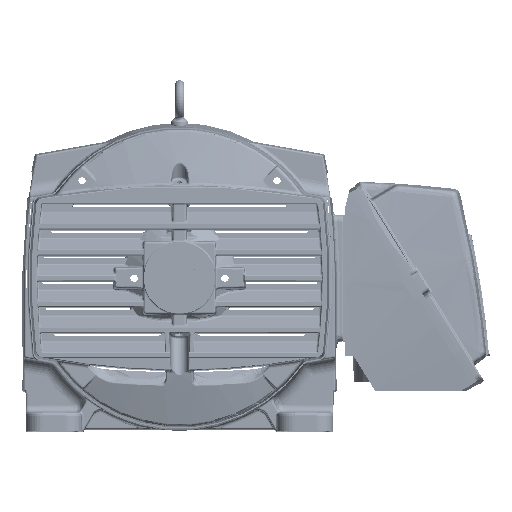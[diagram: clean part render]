
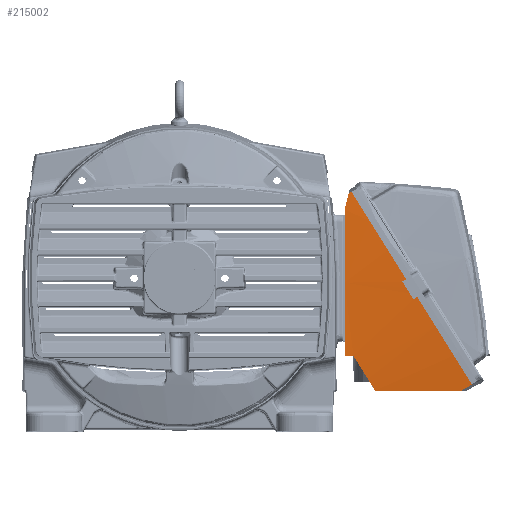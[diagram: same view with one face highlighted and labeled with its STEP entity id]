
A CAD part, top view. The second image highlights one B-rep face of the part: STEP entity #215002.
In plain terms, the highlighted conical face has half-angle 2 degrees and reference radius 1679.31 mm.
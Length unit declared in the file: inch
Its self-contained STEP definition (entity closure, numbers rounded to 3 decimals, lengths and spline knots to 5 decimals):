
#212722=CARTESIAN_POINT('',(-4.99664,6.4701,
5.28443));
#212724=CARTESIAN_POINT('',(-4.99664,6.4701,
5.28443));
#212725=CARTESIAN_POINT('',(-5.09171,6.08879,
5.30828));
#212726=CARTESIAN_POINT('',(-5.18681,5.70738,
5.33041));
#212727=CARTESIAN_POINT('',(-5.28193,5.32589,
5.35085));
#212789=CARTESIAN_POINT('',(-4.78997,6.60878,
5.29218));
#212790=CARTESIAN_POINT('',(-4.85886,6.56256,
5.2896));
#212791=CARTESIAN_POINT('',(-4.92775,6.51633,
5.28702));
#212792=CARTESIAN_POINT('',(-4.99664,6.4701,
5.28443));
#213003=DIRECTION('',(0.848,0.53,0.035));
#213004=VECTOR('',#213003,0.3202);
#213005=CARTESIAN_POINT('',(-1.14372,0.16971,
5.77924));
#213006=LINE('',#213005,#213004);
#213027=DIRECTION('',(-0.848,-0.53,
-0.035));
#213028=VECTOR('',#213027,0.3202);
#213029=CARTESIAN_POINT('',(-0.07747,-0.93279,
5.79042));
#213030=LINE('',#213029,#213028);
#213070=CARTESIAN_POINT('',(-0.47491,-0.29675,
-60.43578));
#213071=DIRECTION('',(0.848,0.53,0.));
#213072=DIRECTION('',(-0.065,0.104,0.992));
#213073=AXIS2_PLACEMENT_3D('',#213070,#213071,#213072);
#213119=CARTESIAN_POINT('',(-0.47491,-0.29675,
-60.43578));
#213120=DIRECTION('',(0.848,0.53,0.));
#213121=DIRECTION('',(0.006,-0.01,1.));
#213122=AXIS2_PLACEMENT_3D('',#213119,#213120,#213121);
#213182=CARTESIAN_POINT('',(3.84015,-7.20229,
5.29218));
#213183=CARTESIAN_POINT('',(3.58895,-7.34813,
5.28314));
#213184=CARTESIAN_POINT('',(3.33775,-7.49396,
5.27409));
#213185=CARTESIAN_POINT('',(3.08655,-7.63979,
5.26504));
#213216=CARTESIAN_POINT('',(-0.74628,-0.46633,
-60.43578));
#213217=DIRECTION('',(0.848,0.53,0.));
#213218=DIRECTION('',(-0.006,0.01,1.));
#213219=AXIS2_PLACEMENT_3D('',#213216,#213217,#213218);
#213299=CARTESIAN_POINT('',(-5.28193,5.32589,
5.35085));
#213300=CARTESIAN_POINT('',(-5.28193,1.84102,
5.6146));
#213301=CARTESIAN_POINT('',(-5.28193,-1.64755,
5.6789));
#213302=CARTESIAN_POINT('',(-5.28193,-5.13979,
5.54425));
#213329=CARTESIAN_POINT('',(-5.28193,-5.13979,
5.54425));
#213330=CARTESIAN_POINT('',(-5.07193,-5.13979,
5.54784));
#213331=CARTESIAN_POINT('',(-4.86193,-5.13979,
5.55115));
#213332=CARTESIAN_POINT('',(-4.65193,-5.13979,
5.55418));
#213360=CARTESIAN_POINT('',(-5.6554,-3.53389,
-60.43578));
#213361=DIRECTION('',(0.848,0.53,0.));
#213362=DIRECTION('',(0.015,-0.024,1.));
#213363=AXIS2_PLACEMENT_3D('',#213360,#213361,#213362);
#213384=CARTESIAN_POINT('',(-3.08975,-7.63979,
5.40356));
#213385=CARTESIAN_POINT('',(-1.03038,-7.63979,
5.38447));
#213386=CARTESIAN_POINT('',(1.02839,-7.63979,
5.33833));
#213387=CARTESIAN_POINT('',(3.08655,-7.63979,
5.26504));
#213389=CARTESIAN_POINT('',(3.08655,-7.63979,
5.26504));
#214284=CARTESIAN_POINT('',(-0.87235,0.33928,
5.79042));
#214286=VERTEX_POINT('',#214284);
#214288=CARTESIAN_POINT('',(-0.07747,-0.93279,
5.79042));
#214290=VERTEX_POINT('',#214288);
#214303=CARTESIAN_POINT('',(-1.14372,0.16971,
5.77924));
#214304=VERTEX_POINT('',#214303);
#214305=CARTESIAN_POINT('',(-0.34884,-1.10237,
5.77924));
#214306=VERTEX_POINT('',#214305);
#214359=VERTEX_POINT('',#212722);
#214361=VERTEX_POINT('',#212727);
#214363=VERTEX_POINT('',#213302);
#214365=VERTEX_POINT('',#213332);
#214368=CARTESIAN_POINT('',(-3.08975,-7.63979,
5.40356));
#214369=VERTEX_POINT('',#214368);
#214371=VERTEX_POINT('',#213389);
#214405=CARTESIAN_POINT('',(-4.78997,6.60878,
5.29218));
#214407=VERTEX_POINT('',#214405);
#214408=CARTESIAN_POINT('',(3.84015,-7.20229,
5.29218));
#214410=VERTEX_POINT('',#214408);
#214978=CARTESIAN_POINT('',(-3.2917,-2.05688,
-60.43578));
#214979=DIRECTION('',(0.848,0.53,0.));
#214980=DIRECTION('',(0.,0.,-1.));
#214981=AXIS2_PLACEMENT_3D('',#214978,#214979,#214980);
#214982=CONICAL_SURFACE('',#214981,66.11446,2.);
#214984=ORIENTED_EDGE('',*,*,#214983,.T.);
#214985=ORIENTED_EDGE('',*,*,#214783,.F.);
#214986=ORIENTED_EDGE('',*,*,#214937,.T.);
#214987=ORIENTED_EDGE('',*,*,#214875,.T.);
#214989=ORIENTED_EDGE('',*,*,#214988,.F.);
#214991=ORIENTED_EDGE('',*,*,#214990,.F.);
#214993=ORIENTED_EDGE('',*,*,#214992,.F.);
#214995=ORIENTED_EDGE('',*,*,#214994,.F.);
#214996=ORIENTED_EDGE('',*,*,#214587,.F.);
#214997=ORIENTED_EDGE('',*,*,#214619,.F.);
#214998=ORIENTED_EDGE('',*,*,#214917,.T.);
#214999=ORIENTED_EDGE('',*,*,#214750,.F.);
#215000=EDGE_LOOP('',(#214984,#214985,#214986,#214987,#214989,#214991,#214993,
#214995,#214996,#214997,#214998,#214999));
#215001=FACE_OUTER_BOUND('',#215000,.F.);
#215002=ADVANCED_FACE('',(#215001),#214982,.T.);
#212728=B_SPLINE_CURVE_WITH_KNOTS('',3,(#212724,#212725,#212726,#212727),
.UNSPECIFIED.,.F.,.F.,(4,4),(0.,1.),.UNSPECIFIED.);
#212793=B_SPLINE_CURVE_WITH_KNOTS('',3,(#212789,#212790,#212791,#212792),
.UNSPECIFIED.,.F.,.F.,(4,4),(0.,1.),.UNSPECIFIED.);
#213074=CIRCLE('',#213073,66.23044);
#213123=CIRCLE('',#213122,66.23044);
#213186=B_SPLINE_CURVE_WITH_KNOTS('',3,(#213182,#213183,#213184,#213185),
.UNSPECIFIED.,.F.,.F.,(4,4),(0.,1.),.UNSPECIFIED.);
#213220=CIRCLE('',#213219,66.21927);
#213303=B_SPLINE_CURVE_WITH_KNOTS('',3,(#213299,#213300,#213301,#213302),
.UNSPECIFIED.,.F.,.F.,(4,4),(0.,1.),.UNSPECIFIED.);
#213333=B_SPLINE_CURVE_WITH_KNOTS('',3,(#213329,#213330,#213331,#213332),
.UNSPECIFIED.,.F.,.F.,(4,4),(0.,1.),.UNSPECIFIED.);
#213364=CIRCLE('',#213363,66.01712);
#213388=B_SPLINE_CURVE_WITH_KNOTS('',3,(#213384,#213385,#213386,#213387),
.UNSPECIFIED.,.F.,.F.,(4,4),(0.,1.),.UNSPECIFIED.);
#214587=EDGE_CURVE('',#214359,#214361,#212728,.T.);
#214619=EDGE_CURVE('',#214407,#214359,#212793,.T.);
#214750=EDGE_CURVE('',#214304,#214286,#213006,.T.);
#214783=EDGE_CURVE('',#214290,#214306,#213030,.T.);
#214875=EDGE_CURVE('',#214410,#214371,#213186,.T.);
#214917=EDGE_CURVE('',#214407,#214286,#213074,.T.);
#214937=EDGE_CURVE('',#214290,#214410,#213123,.T.);
#214983=EDGE_CURVE('',#214304,#214306,#213220,.T.);
#214988=EDGE_CURVE('',#214369,#214371,#213388,.T.);
#214990=EDGE_CURVE('',#214365,#214369,#213364,.T.);
#214992=EDGE_CURVE('',#214363,#214365,#213333,.T.);
#214994=EDGE_CURVE('',#214361,#214363,#213303,.T.);
